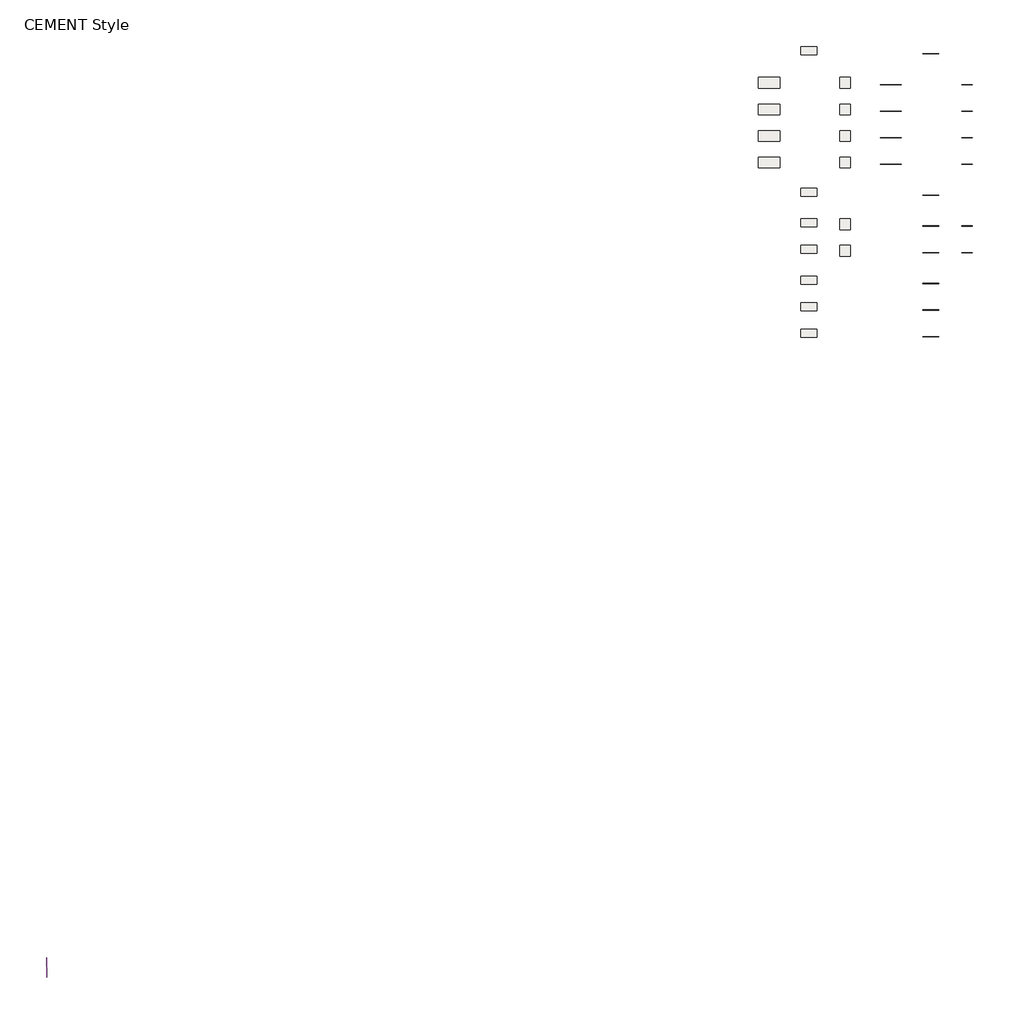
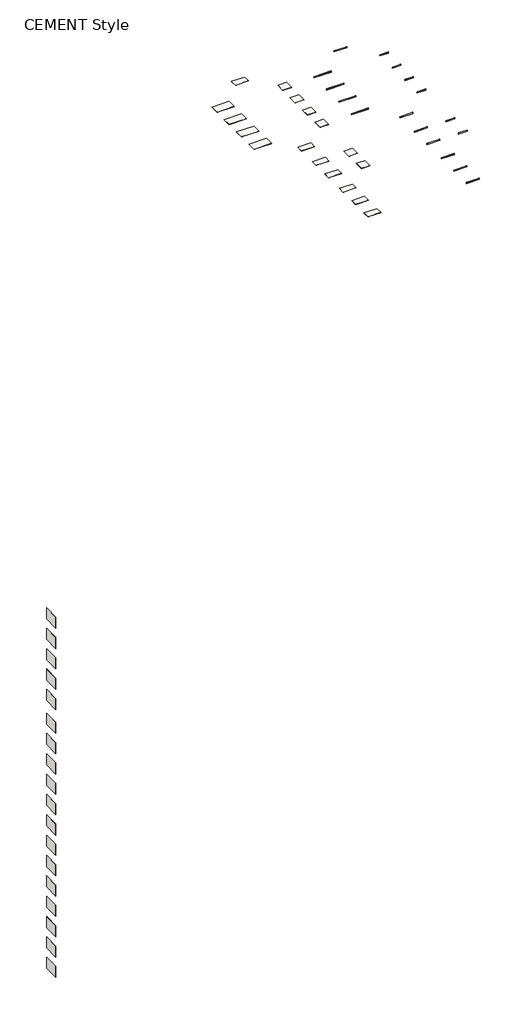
# One storey: 35 walls, 17 proxies, 17 slabs.
"""IFC4 building model written with IfcOpenShell, lengths in millimetres."""

from ifc_helpers import new_model, si_unit, frame, origin, origin_with_axes, place, context, project, spatial, polyline, outline, extrude, element, save

model = new_model("IFC4")

# Units and contexts
model_context = context("Model", 3, world=origin())
ifc_project = project(units=[si_unit("LENGTHUNIT", "METRE", prefix="MILLI")], contexts=[model_context])

# Site, building, storey
site = spatial("IfcSite", under=ifc_project)
building = spatial("IfcBuilding", under=site)
storey = spatial("IfcBuildingStorey", under=building, Name="CEMENT Style", Elevation=0.0)

# Proxies
placement = place(None, origin())
element("IfcBuildingElementProxy", 1, Name="Cesantoni_Frau_8x90_RO_Frau_Mate", ObjectType="Cesantoni_Frau_8x90_RO_Frau_Mate", at=placement, inside=storey, context=model_context, shape_type="SweptSolid", body=[
    extrude(outline(polyline([(8069.8218898, 374.781227), (8069.8218898, 385.781227), (8969.8218898, 385.781227), (8969.8218898, 374.781227), (8069.8218898, 374.781227)])), origin_with_axes(), (0.0, 0.0, 1.0), 80.0),
])
element("IfcBuildingElementProxy", 2, Name="Cesantoni_Leighton_8x60_RO_Sand_Mate", ObjectType="Cesantoni_Leighton_8x60_RO_Sand_Mate", at=placement, inside=storey, context=model_context, shape_type="SweptSolid", body=[
    extrude(outline(polyline([(10269.8218898, -1375.218773), (10269.8218898, -1364.218773), (10869.8218898, -1364.218773), (10869.8218898, -1375.218773), (10269.8218898, -1375.218773)])), origin_with_axes(), (0.0, 0.0, 1.0), 80.0),
])
element("IfcBuildingElementProxy", 3, Name="Cesantoni_Leighton_8x60_RO_Light_Mate", ObjectType="Cesantoni_Leighton_8x60_RO_Light_Mate", at=placement, inside=storey, context=model_context, shape_type="SweptSolid", body=[
    extrude(outline(polyline([(10269.8218898, -2875.218773), (10269.8218898, -2864.218773), (10869.8218898, -2864.218773), (10869.8218898, -2875.218773), (10269.8218898, -2875.218773)])), origin_with_axes(), (0.0, 0.0, 1.0), 80.0),
])
element("IfcBuildingElementProxy", 4, Name="Cesantoni_Leighton_8x60_RO_Gray_Mate", ObjectType="Cesantoni_Leighton_8x60_RO_Gray_Mate", at=placement, inside=storey, context=model_context, shape_type="SweptSolid", body=[
    extrude(outline(polyline([(10269.8218898, -4375.218773), (10269.8218898, -4364.218773), (10869.8218898, -4364.218773), (10869.8218898, -4375.218773), (10269.8218898, -4375.218773)])), origin_with_axes(), (0.0, 0.0, 1.0), 80.0),
])
element("IfcBuildingElementProxy", 5, Name="Cesantoni_Leighton_8x60_RO_Dark_Mate", ObjectType="Cesantoni_Leighton_8x60_RO_Dark_Mate", at=placement, inside=storey, context=model_context, shape_type="SweptSolid", body=[
    extrude(outline(polyline([(10269.8218898, -5875.218773), (10269.8218898, -5864.218773), (10869.8218898, -5864.218773), (10869.8218898, -5875.218773), (10269.8218898, -5875.218773)])), origin_with_axes(), (0.0, 0.0, 1.0), 80.0),
])
element("IfcBuildingElementProxy", 6, Name="Cesantoni_Leighton_8x120_RO_Sand_Mate", ObjectType="Cesantoni_Leighton_8x120_RO_Sand_Mate", at=placement, inside=storey, context=model_context, shape_type="SweptSolid", body=[
    extrude(outline(polyline([(5669.8218898, -1375.218773), (5669.8218898, -1364.218773), (6869.8218898, -1364.218773), (6869.8218898, -1375.218773), (5669.8218898, -1375.218773)])), origin_with_axes(), (0.0, 0.0, 1.0), 80.0),
])
element("IfcBuildingElementProxy", 7, Name="Cesantoni_Leighton_8x120_RO_Light_Mate", ObjectType="Cesantoni_Leighton_8x120_RO_Light_Mate", at=placement, inside=storey, context=model_context, shape_type="SweptSolid", body=[
    extrude(outline(polyline([(5669.8218898, -2875.218773), (5669.8218898, -2864.218773), (6869.8218898, -2864.218773), (6869.8218898, -2875.218773), (5669.8218898, -2875.218773)])), origin_with_axes(), (0.0, 0.0, 1.0), 80.0),
])
element("IfcBuildingElementProxy", 8, Name="Cesantoni_Leighton_8x120_RO_Gray_Mate", ObjectType="Cesantoni_Leighton_8x120_RO_Gray_Mate", at=placement, inside=storey, context=model_context, shape_type="SweptSolid", body=[
    extrude(outline(polyline([(5669.8218898, -4375.218773), (5669.8218898, -4364.218773), (6869.8218898, -4364.218773), (6869.8218898, -4375.218773), (5669.8218898, -4375.218773)])), origin_with_axes(), (0.0, 0.0, 1.0), 80.0),
])
element("IfcBuildingElementProxy", 9, Name="Cesantoni_Leighton_8x120_RO_Dark_Mate", ObjectType="Cesantoni_Leighton_8x120_RO_Dark_Mate", at=placement, inside=storey, context=model_context, shape_type="SweptSolid", body=[
    extrude(outline(polyline([(5669.8218898, -5875.218773), (5669.8218898, -5864.218773), (6869.8218898, -5864.218773), (6869.8218898, -5875.218773), (5669.8218898, -5875.218773)])), origin_with_axes(), (0.0, 0.0, 1.0), 80.0),
])
element("IfcBuildingElementProxy", 10, Name="Cesantoni_Nouvelle_8x90_RO_Nouvelle_Mate", ObjectType="Cesantoni_Nouvelle_8x90_RO_Nouvelle_Mate", at=placement, inside=storey, context=model_context, shape_type="SweptSolid", body=[
    extrude(outline(polyline([(8069.8218898, -7625.218773), (8069.8218898, -7614.218773), (8969.8218898, -7614.218773), (8969.8218898, -7625.218773), (8069.8218898, -7625.218773)])), origin_with_axes(), (0.0, 0.0, 1.0), 80.0),
])
element("IfcBuildingElementProxy", 11, Name="Cesantoni_Padova_8x60_RO_Oxford_Mate", ObjectType="Cesantoni_Padova_8x60_RO_Oxford_Mate", at=placement, inside=storey, context=model_context, shape_type="SweptSolid", body=[
    extrude(outline(polyline([(10269.8218898, -9375.218773), (10269.8218898, -9364.218773), (10869.8218898, -9364.218773), (10869.8218898, -9375.218773), (10269.8218898, -9375.218773)])), origin_with_axes(), (0.0, 0.0, 1.0), 80.0),
])
element("IfcBuildingElementProxy", 12, Name="Cesantoni_Padova_8x60_RO_Perla_Mate", ObjectType="Cesantoni_Padova_8x60_RO_Perla_Mate", at=placement, inside=storey, context=model_context, shape_type="SweptSolid", body=[
    extrude(outline(polyline([(10269.8218898, -10875.218773), (10269.8218898, -10864.218773), (10869.8218898, -10864.218773), (10869.8218898, -10875.218773), (10269.8218898, -10875.218773)])), origin_with_axes(), (0.0, 0.0, 1.0), 80.0),
])
element("IfcBuildingElementProxy", 13, Name="Cesantoni_Padova _8x90_RO_Oxford_Mate", ObjectType="Cesantoni_Padova _8x90_RO_Oxford_Mate", at=placement, inside=storey, context=model_context, shape_type="SweptSolid", body=[
    extrude(outline(polyline([(8069.8218898, -9375.218773), (8069.8218898, -9364.218773), (8969.8218898, -9364.218773), (8969.8218898, -9375.218773), (8069.8218898, -9375.218773)])), origin_with_axes(), (0.0, 0.0, 1.0), 80.0),
])
element("IfcBuildingElementProxy", 14, Name="Cesantoni_Padova _8x90_RO_Perla_Mate", ObjectType="Cesantoni_Padova _8x90_RO_Perla_Mate", at=placement, inside=storey, context=model_context, shape_type="SweptSolid", body=[
    extrude(outline(polyline([(8069.8218898, -10875.218773), (8069.8218898, -10864.218773), (8969.8218898, -10864.218773), (8969.8218898, -10875.218773), (8069.8218898, -10875.218773)])), origin_with_axes(), (0.0, 0.0, 1.0), 80.0),
])
element("IfcBuildingElementProxy", 15, Name="Cesantoni_Trenton_8x90_RO_Sand_Mate", ObjectType="Cesantoni_Trenton_8x90_RO_Sand_Mate", at=placement, inside=storey, context=model_context, shape_type="SweptSolid", body=[
    extrude(outline(polyline([(8069.8218898, -12625.218773), (8069.8218898, -12614.218773), (8969.8218898, -12614.218773), (8969.8218898, -12625.218773), (8069.8218898, -12625.218773)])), origin_with_axes(), (0.0, 0.0, 1.0), 80.0),
])
element("IfcBuildingElementProxy", 16, Name="Cesantoni_Trenton_8x90_RO_Light Gray_Mate", ObjectType="Cesantoni_Trenton_8x90_RO_Light Gray_Mate", at=placement, inside=storey, context=model_context, shape_type="SweptSolid", body=[
    extrude(outline(polyline([(8069.8218898, -14125.218773), (8069.8218898, -14114.218773), (8969.8218898, -14114.218773), (8969.8218898, -14125.218773), (8069.8218898, -14125.218773)])), origin_with_axes(), (0.0, 0.0, 1.0), 80.0),
])
element("IfcBuildingElementProxy", 17, Name="Cesantoni_Trenton_8x90_RO_Silver_Mate", ObjectType="Cesantoni_Trenton_8x90_RO_Silver_Mate", at=placement, inside=storey, context=model_context, shape_type="SweptSolid", body=[
    extrude(outline(polyline([(8069.8218898, -15625.218773), (8069.8218898, -15614.218773), (8969.8218898, -15614.218773), (8969.8218898, -15625.218773), (8069.8218898, -15625.218773)])), origin_with_axes(), (0.0, 0.0, 1.0), 80.0),
])

# Slabs
element("IfcSlab", 18, ObjectType="Cesantoni_Frau_45x90_RECT_Frau_Mate", at=placement, inside=storey, context=model_context, shape_type="SweptSolid", body=[
    extrude(outline(polyline([(2071.8218898, 784.4826442), (2071.8218898, 332.4826442), (1169.8218898, 332.4826442), (1169.8218898, 784.4826442), (2071.8218898, 784.4826442)])), frame((0.0, 0.0, -11.0), z_axis=(0.0, 0.0, 1.0), x_axis=(1.0, 0.0, 0.0)), (0.0, 0.0, 1.0), 11.0),
])
element("IfcSlab", 19, ObjectType="Cesantoni_Leighton_60x120_RECT_Sand_Mate", at=placement, inside=storey, context=model_context, shape_type="SweptSolid", body=[
    extrude(outline(polyline([(-28.1781102, -965.5173558), (-28.1781102, -1567.5173558), (-1230.1781102, -1567.5173558), (-1230.1781102, -965.5173558), (-28.1781102, -965.5173558)])), frame((0.0, 0.0, -11.0), z_axis=(0.0, 0.0, 1.0), x_axis=(1.0, 0.0, 0.0)), (0.0, 0.0, 1.0), 11.0),
])
element("IfcSlab", 20, ObjectType="Cesantoni_Leighton_60x120_RECT_Light_Mate", at=placement, inside=storey, context=model_context, shape_type="SweptSolid", body=[
    extrude(outline(polyline([(-28.1781102, -2465.5173558), (-28.1781102, -3067.5173558), (-1230.1781102, -3067.5173558), (-1230.1781102, -2465.5173558), (-28.1781102, -2465.5173558)])), frame((0.0, 0.0, -11.0), z_axis=(0.0, 0.0, 1.0), x_axis=(1.0, 0.0, 0.0)), (0.0, 0.0, 1.0), 11.0),
])
element("IfcSlab", 21, ObjectType="Cesantoni_Leighton_60x120_RECT_Gray_Mate", at=placement, inside=storey, context=model_context, shape_type="SweptSolid", body=[
    extrude(outline(polyline([(-28.1781102, -3965.5173558), (-28.1781102, -4567.5173558), (-1230.1781102, -4567.5173558), (-1230.1781102, -3965.5173558), (-28.1781102, -3965.5173558)])), frame((0.0, 0.0, -11.0), z_axis=(0.0, 0.0, 1.0), x_axis=(1.0, 0.0, 0.0)), (0.0, 0.0, 1.0), 11.0),
])
element("IfcSlab", 22, ObjectType="Cesantoni_Leighton_60x120_RECT_Dark_Mate", at=placement, inside=storey, context=model_context, shape_type="SweptSolid", body=[
    extrude(outline(polyline([(-28.1781102, -5465.5173558), (-28.1781102, -6067.5173558), (-1230.1781102, -6067.5173558), (-1230.1781102, -5465.5173558), (-28.1781102, -5465.5173558)])), frame((0.0, 0.0, -11.0), z_axis=(0.0, 0.0, 1.0), x_axis=(1.0, 0.0, 0.0)), (0.0, 0.0, 1.0), 11.0),
])
element("IfcSlab", 23, ObjectType="Cesantoni_Leighton_60x60_RECT_Sand_Mate", at=placement, inside=storey, context=model_context, shape_type="SweptSolid", body=[
    extrude(outline(polyline([(3971.8218898, -965.5173558), (3971.8218898, -1567.5173558), (3369.8218898, -1567.5173558), (3369.8218898, -965.5173558), (3971.8218898, -965.5173558)])), frame((0.0, 0.0, -11.0), z_axis=(0.0, 0.0, 1.0), x_axis=(1.0, 0.0, 0.0)), (0.0, 0.0, 1.0), 11.0),
])
element("IfcSlab", 24, ObjectType="Cesantoni_Leighton_60x60_RECT_Light_Mate", at=placement, inside=storey, context=model_context, shape_type="SweptSolid", body=[
    extrude(outline(polyline([(3971.8218898, -2465.5173558), (3971.8218898, -3067.5173558), (3369.8218898, -3067.5173558), (3369.8218898, -2465.5173558), (3971.8218898, -2465.5173558)])), frame((0.0, 0.0, -11.0), z_axis=(0.0, 0.0, 1.0), x_axis=(1.0, 0.0, 0.0)), (0.0, 0.0, 1.0), 11.0),
])
element("IfcSlab", 25, ObjectType="Cesantoni_Leighton_60x60_RECT_Gray_Mate", at=placement, inside=storey, context=model_context, shape_type="SweptSolid", body=[
    extrude(outline(polyline([(3971.8218898, -3965.5173558), (3971.8218898, -4567.5173558), (3369.8218898, -4567.5173558), (3369.8218898, -3965.5173558), (3971.8218898, -3965.5173558)])), frame((0.0, 0.0, -11.0), z_axis=(0.0, 0.0, 1.0), x_axis=(1.0, 0.0, 0.0)), (0.0, 0.0, 1.0), 11.0),
])
element("IfcSlab", 26, ObjectType="Cesantoni_Leighton_60x60_RECT_Dark_Mate", at=placement, inside=storey, context=model_context, shape_type="SweptSolid", body=[
    extrude(outline(polyline([(3971.8218898, -5465.5173558), (3971.8218898, -6067.5173558), (3369.8218898, -6067.5173558), (3369.8218898, -5465.5173558), (3971.8218898, -5465.5173558)])), frame((0.0, 0.0, -11.0), z_axis=(0.0, 0.0, 1.0), x_axis=(1.0, 0.0, 0.0)), (0.0, 0.0, 1.0), 11.0),
])
element("IfcSlab", 27, ObjectType="Cesantoni_Nouvelle_45x90_RECT_Nouvelle_Mate", at=placement, inside=storey, context=model_context, shape_type="SweptSolid", body=[
    extrude(outline(polyline([(2071.8218898, -7215.5173558), (2071.8218898, -7667.5173558), (1169.8218898, -7667.5173558), (1169.8218898, -7215.5173558), (2071.8218898, -7215.5173558)])), frame((0.0, 0.0, -11.0), z_axis=(0.0, 0.0, 1.0), x_axis=(1.0, 0.0, 0.0)), (0.0, 0.0, 1.0), 11.0),
])
element("IfcSlab", 28, ObjectType="Cesantoni_Padova_60x60_RECT_Oxford_Mate", at=placement, inside=storey, context=model_context, shape_type="SweptSolid", body=[
    extrude(outline(polyline([(3971.8218898, -8965.5173558), (3971.8218898, -9567.5173558), (3369.8218898, -9567.5173558), (3369.8218898, -8965.5173558), (3971.8218898, -8965.5173558)])), frame((0.0, 0.0, -11.0), z_axis=(0.0, 0.0, 1.0), x_axis=(1.0, 0.0, 0.0)), (0.0, 0.0, 1.0), 11.0),
])
element("IfcSlab", 29, ObjectType="Cesantoni_Padova_60x60_RECT_Perla_Mate", at=placement, inside=storey, context=model_context, shape_type="SweptSolid", body=[
    extrude(outline(polyline([(3971.8218898, -10465.5173558), (3971.8218898, -11067.5173558), (3369.8218898, -11067.5173558), (3369.8218898, -10465.5173558), (3971.8218898, -10465.5173558)])), frame((0.0, 0.0, -11.0), z_axis=(0.0, 0.0, 1.0), x_axis=(1.0, 0.0, 0.0)), (0.0, 0.0, 1.0), 11.0),
])
element("IfcSlab", 30, ObjectType="Cesantoni_Padova _45x90_RECT_Oxford_Mate", at=placement, inside=storey, context=model_context, shape_type="SweptSolid", body=[
    extrude(outline(polyline([(2071.8218898, -8965.5173558), (2071.8218898, -9417.5173558), (1169.8218898, -9417.5173558), (1169.8218898, -8965.5173558), (2071.8218898, -8965.5173558)])), frame((0.0, 0.0, -11.0), z_axis=(0.0, 0.0, 1.0), x_axis=(1.0, 0.0, 0.0)), (0.0, 0.0, 1.0), 11.0),
])
element("IfcSlab", 31, ObjectType="Cesantoni_Padova _45x90_RECT_Perla_Mate", at=placement, inside=storey, context=model_context, shape_type="SweptSolid", body=[
    extrude(outline(polyline([(2071.8218898, -10465.5173558), (2071.8218898, -10917.5173558), (1169.8218898, -10917.5173558), (1169.8218898, -10465.5173558), (2071.8218898, -10465.5173558)])), frame((0.0, 0.0, -11.0), z_axis=(0.0, 0.0, 1.0), x_axis=(1.0, 0.0, 0.0)), (0.0, 0.0, 1.0), 11.0),
])
element("IfcSlab", 32, ObjectType="Cesantoni_Trenton_45x90_RECT_Sand_Mate", at=placement, inside=storey, context=model_context, shape_type="SweptSolid", body=[
    extrude(outline(polyline([(2071.8218898, -12215.5173558), (2071.8218898, -12667.5173558), (1169.8218898, -12667.5173558), (1169.8218898, -12215.5173558), (2071.8218898, -12215.5173558)])), frame((0.0, 0.0, -11.0), z_axis=(0.0, 0.0, 1.0), x_axis=(1.0, 0.0, 0.0)), (0.0, 0.0, 1.0), 11.0),
])
element("IfcSlab", 33, ObjectType="Cesantoni_Trenton_45x90_RECT_Light Gray_Mate", at=placement, inside=storey, context=model_context, shape_type="SweptSolid", body=[
    extrude(outline(polyline([(2071.8218898, -13715.5173558), (2071.8218898, -14167.5173558), (1169.8218898, -14167.5173558), (1169.8218898, -13715.5173558), (2071.8218898, -13715.5173558)])), frame((0.0, 0.0, -11.0), z_axis=(0.0, 0.0, 1.0), x_axis=(1.0, 0.0, 0.0)), (0.0, 0.0, 1.0), 11.0),
])
element("IfcSlab", 34, ObjectType="Cesantoni_Trenton_45x90_RECT_Silver_Mate", at=placement, inside=storey, context=model_context, shape_type="SweptSolid", body=[
    extrude(outline(polyline([(2071.8218898, -15215.5173558), (2071.8218898, -15667.5173558), (1169.8218898, -15667.5173558), (1169.8218898, -15215.5173558), (2071.8218898, -15215.5173558)])), frame((0.0, 0.0, -11.0), z_axis=(0.0, 0.0, 1.0), x_axis=(1.0, 0.0, 0.0)), (0.0, 0.0, 1.0), 11.0),
])

# Walls
element("IfcWall", 35, ObjectType="Muro básico:muro", at=placement, inside=storey, context=model_context, shape_type="SweptSolid", body=[
    extrude(outline(polyline([(8969.8218898, 385.781227), (8069.8218898, 385.781227), (8069.8218898, 386.781227), (8969.8218898, 386.781227), (8969.8218898, 385.781227)])), origin_with_axes(), (0.0, 0.0, 1.0), 40.0),
])
element("IfcWall", 36, ObjectType="Muro básico:muro", at=placement, inside=storey, context=model_context, shape_type="SweptSolid", body=[
    extrude(outline(polyline([(10869.8218898, -1364.218773), (10269.8218898, -1364.218773), (10269.8218898, -1363.218773), (10869.8218898, -1363.218773), (10869.8218898, -1364.218773)])), origin_with_axes(), (0.0, 0.0, 1.0), 40.0),
])
element("IfcWall", 37, ObjectType="Muro básico:muro", at=placement, inside=storey, context=model_context, shape_type="SweptSolid", body=[
    extrude(outline(polyline([(10869.8218898, -2864.218773), (10269.8218898, -2864.218773), (10269.8218898, -2863.218773), (10869.8218898, -2863.218773), (10869.8218898, -2864.218773)])), origin_with_axes(), (0.0, 0.0, 1.0), 40.0),
])
element("IfcWall", 38, ObjectType="Muro básico:muro", at=placement, inside=storey, context=model_context, shape_type="SweptSolid", body=[
    extrude(outline(polyline([(10869.8218898, -4364.218773), (10269.8218898, -4364.218773), (10269.8218898, -4363.218773), (10869.8218898, -4363.218773), (10869.8218898, -4364.218773)])), origin_with_axes(), (0.0, 0.0, 1.0), 40.0),
])
element("IfcWall", 39, ObjectType="Muro básico:muro", at=placement, inside=storey, context=model_context, shape_type="SweptSolid", body=[
    extrude(outline(polyline([(10869.8218898, -5864.218773), (10269.8218898, -5864.218773), (10269.8218898, -5863.218773), (10869.8218898, -5863.218773), (10869.8218898, -5864.218773)])), origin_with_axes(), (0.0, 0.0, 1.0), 40.0),
])
element("IfcWall", 40, ObjectType="Muro básico:muro", at=placement, inside=storey, context=model_context, shape_type="SweptSolid", body=[
    extrude(outline(polyline([(6869.8218898, -1364.218773), (5669.8218898, -1364.218773), (5669.8218898, -1363.218773), (6869.8218898, -1363.218773), (6869.8218898, -1364.218773)])), origin_with_axes(), (0.0, 0.0, 1.0), 40.0),
])
element("IfcWall", 41, ObjectType="Muro básico:muro", at=placement, inside=storey, context=model_context, shape_type="SweptSolid", body=[
    extrude(outline(polyline([(6869.8218898, -2864.218773), (5669.8218898, -2864.218773), (5669.8218898, -2863.218773), (6869.8218898, -2863.218773), (6869.8218898, -2864.218773)])), origin_with_axes(), (0.0, 0.0, 1.0), 40.0),
])
element("IfcWall", 42, ObjectType="Muro básico:muro", at=placement, inside=storey, context=model_context, shape_type="SweptSolid", body=[
    extrude(outline(polyline([(6869.8218898, -4364.218773), (5669.8218898, -4364.218773), (5669.8218898, -4363.218773), (6869.8218898, -4363.218773), (6869.8218898, -4364.218773)])), origin_with_axes(), (0.0, 0.0, 1.0), 40.0),
])
element("IfcWall", 43, ObjectType="Muro básico:muro", at=placement, inside=storey, context=model_context, shape_type="SweptSolid", body=[
    extrude(outline(polyline([(6869.8218898, -5864.218773), (5669.8218898, -5864.218773), (5669.8218898, -5863.218773), (6869.8218898, -5863.218773), (6869.8218898, -5864.218773)])), origin_with_axes(), (0.0, 0.0, 1.0), 40.0),
])
element("IfcWall", 44, ObjectType="Muro básico:muro", at=placement, inside=storey, context=model_context, shape_type="SweptSolid", body=[
    extrude(outline(polyline([(8969.8218898, -7614.218773), (8069.8218898, -7614.218773), (8069.8218898, -7613.218773), (8969.8218898, -7613.218773), (8969.8218898, -7614.218773)])), origin_with_axes(), (0.0, 0.0, 1.0), 40.0),
])
element("IfcWall", 45, ObjectType="Muro básico:muro", at=placement, inside=storey, context=model_context, shape_type="SweptSolid", body=[
    extrude(outline(polyline([(10869.8218898, -9364.218773), (10269.8218898, -9364.218773), (10269.8218898, -9363.218773), (10869.8218898, -9363.218773), (10869.8218898, -9364.218773)])), origin_with_axes(), (0.0, 0.0, 1.0), 40.0),
])
element("IfcWall", 46, ObjectType="Muro básico:muro", at=placement, inside=storey, context=model_context, shape_type="SweptSolid", body=[
    extrude(outline(polyline([(10869.8218898, -10864.218773), (10269.8218898, -10864.218773), (10269.8218898, -10863.218773), (10869.8218898, -10863.218773), (10869.8218898, -10864.218773)])), origin_with_axes(), (0.0, 0.0, 1.0), 40.0),
])
element("IfcWall", 47, ObjectType="Muro básico:muro", at=placement, inside=storey, context=model_context, shape_type="SweptSolid", body=[
    extrude(outline(polyline([(8969.8218898, -9364.218773), (8069.8218898, -9364.218773), (8069.8218898, -9363.218773), (8969.8218898, -9363.218773), (8969.8218898, -9364.218773)])), origin_with_axes(), (0.0, 0.0, 1.0), 40.0),
])
element("IfcWall", 48, ObjectType="Muro básico:muro", at=placement, inside=storey, context=model_context, shape_type="SweptSolid", body=[
    extrude(outline(polyline([(8969.8218898, -10864.218773), (8069.8218898, -10864.218773), (8069.8218898, -10863.218773), (8969.8218898, -10863.218773), (8969.8218898, -10864.218773)])), origin_with_axes(), (0.0, 0.0, 1.0), 40.0),
])
element("IfcWall", 49, ObjectType="Muro básico:muro", at=placement, inside=storey, context=model_context, shape_type="SweptSolid", body=[
    extrude(outline(polyline([(8969.8218898, -12614.218773), (8069.8218898, -12614.218773), (8069.8218898, -12613.218773), (8969.8218898, -12613.218773), (8969.8218898, -12614.218773)])), origin_with_axes(), (0.0, 0.0, 1.0), 40.0),
])
element("IfcWall", 50, ObjectType="Muro básico:muro", at=placement, inside=storey, context=model_context, shape_type="SweptSolid", body=[
    extrude(outline(polyline([(8969.8218898, -14114.218773), (8069.8218898, -14114.218773), (8069.8218898, -14113.218773), (8969.8218898, -14113.218773), (8969.8218898, -14114.218773)])), origin_with_axes(), (0.0, 0.0, 1.0), 40.0),
])
element("IfcWall", 51, ObjectType="Muro básico:muro", at=placement, inside=storey, context=model_context, shape_type="SweptSolid", body=[
    extrude(outline(polyline([(8969.8218898, -15614.218773), (8069.8218898, -15614.218773), (8069.8218898, -15613.218773), (8969.8218898, -15613.218773), (8969.8218898, -15614.218773)])), origin_with_axes(), (0.0, 0.0, 1.0), 40.0),
])
element("IfcWall", 52, ObjectType="Cesantoni_Charlot_28.3x7.2_Graphite Mate_Mate", at=placement, inside=storey, context=model_context, shape_type="SweptSolid", body=[
    extrude(outline(polyline([(-41497.3407204, -50736.7282789), (-41497.3407204, -51856.7282789), (-41507.3407204, -51856.7282789), (-41507.3407204, -50736.7282789), (-41497.3407204, -50736.7282789)])), frame((0.0, 0.0, 6546.5829342), z_axis=(0.0, 0.0, 1.0), x_axis=(1.0, 0.0, 0.0)), (0.0, 0.0, 1.0), 812.8042727),
])
element("IfcWall", 53, ObjectType="Cesantoni_Charlot_28.3x7.2_Blanco Mate_Mate", at=placement, inside=storey, context=model_context, shape_type="SweptSolid", body=[
    extrude(outline(polyline([(-41497.3407204, -50736.7282789), (-41497.3407204, -51856.7282789), (-41507.3407204, -51856.7282789), (-41507.3407204, -50736.7282789), (-41497.3407204, -50736.7282789)])), frame((0.0, 0.0, 5046.5829342), z_axis=(0.0, 0.0, 1.0), x_axis=(1.0, 0.0, 0.0)), (0.0, 0.0, 1.0), 812.8042727),
])
element("IfcWall", 54, ObjectType="Cesantoni_Charlot_28.3x7.2_Blanco_Brillante", at=placement, inside=storey, context=model_context, shape_type="SweptSolid", body=[
    extrude(outline(polyline([(-41497.3407204, -50736.7282789), (-41497.3407204, -51856.7282789), (-41507.3407204, -51856.7282789), (-41507.3407204, -50736.7282789), (-41497.3407204, -50736.7282789)])), frame((0.0, 0.0, 3546.5829342), z_axis=(0.0, 0.0, 1.0), x_axis=(1.0, 0.0, 0.0)), (0.0, 0.0, 1.0), 812.8042727),
])
element("IfcWall", 55, ObjectType="Cesantoni_Charlot_28.3x7.2_Negro Mate_Mate", at=placement, inside=storey, context=model_context, shape_type="SweptSolid", body=[
    extrude(outline(polyline([(-41497.3407204, -50736.7282789), (-41497.3407204, -51856.7282789), (-41507.3407204, -51856.7282789), (-41507.3407204, -50736.7282789), (-41497.3407204, -50736.7282789)])), frame((0.0, 0.0, 2046.5829342), z_axis=(0.0, 0.0, 1.0), x_axis=(1.0, 0.0, 0.0)), (0.0, 0.0, 1.0), 812.8042727),
])
element("IfcWall", 56, ObjectType="Cesantoni_Charlot_28.3x7.2_Negro_Brillante", at=placement, inside=storey, context=model_context, shape_type="SweptSolid", body=[
    extrude(outline(polyline([(-41497.3407204, -50736.7282789), (-41497.3407204, -51856.7282789), (-41507.3407204, -51856.7282789), (-41507.3407204, -50736.7282789), (-41497.3407204, -50736.7282789)])), frame((0.0, 0.0, 546.5829342), z_axis=(0.0, 0.0, 1.0), x_axis=(1.0, 0.0, 0.0)), (0.0, 0.0, 1.0), 812.8042727),
])
element("IfcWall", 57, ObjectType="Cesantoni_Edimburgo_28.3x7.2_Pearl Rose_Brillante", at=placement, inside=storey, context=model_context, shape_type="SweptSolid", body=[
    extrude(outline(polyline([(-41497.3407204, -50736.7282789), (-41497.3407204, -51856.7282789), (-41507.3407204, -51856.7282789), (-41507.3407204, -50736.7282789), (-41497.3407204, -50736.7282789)])), frame((0.0, 0.0, -1203.4170658), z_axis=(0.0, 0.0, 1.0), x_axis=(1.0, 0.0, 0.0)), (0.0, 0.0, 1.0), 812.8042727),
])
element("IfcWall", 58, ObjectType="Cesantoni_Edimburgo_28.3x7.2_Ambar_Brillante", at=placement, inside=storey, context=model_context, shape_type="SweptSolid", body=[
    extrude(outline(polyline([(-41497.3407204, -50736.7282789), (-41497.3407204, -51856.7282789), (-41507.3407204, -51856.7282789), (-41507.3407204, -50736.7282789), (-41497.3407204, -50736.7282789)])), frame((0.0, 0.0, -2703.4170658), z_axis=(0.0, 0.0, 1.0), x_axis=(1.0, 0.0, 0.0)), (0.0, 0.0, 1.0), 812.8042727),
])
element("IfcWall", 59, ObjectType="Cesantoni_Edimburgo_28.3x7.2_Coral_Brillante", at=placement, inside=storey, context=model_context, shape_type="SweptSolid", body=[
    extrude(outline(polyline([(-41497.3407204, -50736.7282789), (-41497.3407204, -51856.7282789), (-41507.3407204, -51856.7282789), (-41507.3407204, -50736.7282789), (-41497.3407204, -50736.7282789)])), frame((0.0, 0.0, -4203.4170658), z_axis=(0.0, 0.0, 1.0), x_axis=(1.0, 0.0, 0.0)), (0.0, 0.0, 1.0), 812.8042727),
])
element("IfcWall", 60, ObjectType="Cesantoni_Edimburgo_28.3x7.2_Obsidian_Brillante", at=placement, inside=storey, context=model_context, shape_type="SweptSolid", body=[
    extrude(outline(polyline([(-41497.3407204, -50736.7282789), (-41497.3407204, -51856.7282789), (-41507.3407204, -51856.7282789), (-41507.3407204, -50736.7282789), (-41497.3407204, -50736.7282789)])), frame((0.0, 0.0, -5703.4170658), z_axis=(0.0, 0.0, 1.0), x_axis=(1.0, 0.0, 0.0)), (0.0, 0.0, 1.0), 812.8042727),
])
element("IfcWall", 61, ObjectType="Cesantoni_Edimburgo_28.3x7.2_Olive_Brillante", at=placement, inside=storey, context=model_context, shape_type="SweptSolid", body=[
    extrude(outline(polyline([(-41497.3407204, -50736.7282789), (-41497.3407204, -51856.7282789), (-41507.3407204, -51856.7282789), (-41507.3407204, -50736.7282789), (-41497.3407204, -50736.7282789)])), frame((0.0, 0.0, -7203.4170658), z_axis=(0.0, 0.0, 1.0), x_axis=(1.0, 0.0, 0.0)), (0.0, 0.0, 1.0), 812.8042727),
])
element("IfcWall", 62, ObjectType="Cesantoni_Edimburgo_28.3x7.2_Marfil Mate_Mate", at=placement, inside=storey, context=model_context, shape_type="SweptSolid", body=[
    extrude(outline(polyline([(-41497.3407204, -50736.7282789), (-41497.3407204, -51856.7282789), (-41507.3407204, -51856.7282789), (-41507.3407204, -50736.7282789), (-41497.3407204, -50736.7282789)])), frame((0.0, 0.0, -8703.4170658), z_axis=(0.0, 0.0, 1.0), x_axis=(1.0, 0.0, 0.0)), (0.0, 0.0, 1.0), 812.8042727),
])
element("IfcWall", 63, ObjectType="Cesantoni_Edimburgo_28.3x7.2_Marfil_Brillante", at=placement, inside=storey, context=model_context, shape_type="SweptSolid", body=[
    extrude(outline(polyline([(-41497.3407204, -50736.7282789), (-41497.3407204, -51856.7282789), (-41507.3407204, -51856.7282789), (-41507.3407204, -50736.7282789), (-41497.3407204, -50736.7282789)])), frame((0.0, 0.0, -10203.4170658), z_axis=(0.0, 0.0, 1.0), x_axis=(1.0, 0.0, 0.0)), (0.0, 0.0, 1.0), 812.8042727),
])
element("IfcWall", 64, ObjectType="Cesantoni_Edimburgo_28.3x7.2_Taupé Mate_Mate", at=placement, inside=storey, context=model_context, shape_type="SweptSolid", body=[
    extrude(outline(polyline([(-41497.3407204, -50736.7282789), (-41497.3407204, -51856.7282789), (-41507.3407204, -51856.7282789), (-41507.3407204, -50736.7282789), (-41497.3407204, -50736.7282789)])), frame((0.0, 0.0, -11703.4170658), z_axis=(0.0, 0.0, 1.0), x_axis=(1.0, 0.0, 0.0)), (0.0, 0.0, 1.0), 812.8042727),
])
element("IfcWall", 65, ObjectType="Cesantoni_Edimburgo_28.3x7.2_Taupé_Brillante", at=placement, inside=storey, context=model_context, shape_type="SweptSolid", body=[
    extrude(outline(polyline([(-41497.3407204, -50736.7282789), (-41497.3407204, -51856.7282789), (-41507.3407204, -51856.7282789), (-41507.3407204, -50736.7282789), (-41497.3407204, -50736.7282789)])), frame((0.0, 0.0, -13203.4170658), z_axis=(0.0, 0.0, 1.0), x_axis=(1.0, 0.0, 0.0)), (0.0, 0.0, 1.0), 812.8042727),
])
element("IfcWall", 66, ObjectType="Cesantoni_Edimburgo_28.3x7.2_Café Mate_Mate", at=placement, inside=storey, context=model_context, shape_type="SweptSolid", body=[
    extrude(outline(polyline([(-41497.3407204, -50736.7282789), (-41497.3407204, -51856.7282789), (-41507.3407204, -51856.7282789), (-41507.3407204, -50736.7282789), (-41497.3407204, -50736.7282789)])), frame((0.0, 0.0, -14703.4170658), z_axis=(0.0, 0.0, 1.0), x_axis=(1.0, 0.0, 0.0)), (0.0, 0.0, 1.0), 812.8042727),
])
element("IfcWall", 67, ObjectType="Cesantoni_Edimburgo_28.3x7.2_Café_Brillante", at=placement, inside=storey, context=model_context, shape_type="SweptSolid", body=[
    extrude(outline(polyline([(-41497.3407204, -50736.7282789), (-41497.3407204, -51856.7282789), (-41507.3407204, -51856.7282789), (-41507.3407204, -50736.7282789), (-41497.3407204, -50736.7282789)])), frame((0.0, 0.0, -16203.4170658), z_axis=(0.0, 0.0, 1.0), x_axis=(1.0, 0.0, 0.0)), (0.0, 0.0, 1.0), 812.8042727),
])
element("IfcWall", 68, ObjectType="Cesantoni_Edimburgo_28.3x7.2_Oxford Mate_Mate", at=placement, inside=storey, context=model_context, shape_type="SweptSolid", body=[
    extrude(outline(polyline([(-41497.3407204, -50736.7282789), (-41497.3407204, -51856.7282789), (-41507.3407204, -51856.7282789), (-41507.3407204, -50736.7282789), (-41497.3407204, -50736.7282789)])), frame((0.0, 0.0, -17703.4170658), z_axis=(0.0, 0.0, 1.0), x_axis=(1.0, 0.0, 0.0)), (0.0, 0.0, 1.0), 812.8042727),
])
element("IfcWall", 69, ObjectType="Cesantoni_Edimburgo_28.3x7.2_Oxford_Brillante", at=placement, inside=storey, context=model_context, shape_type="SweptSolid", body=[
    extrude(outline(polyline([(-41497.3407204, -50736.7282789), (-41497.3407204, -51856.7282789), (-41507.3407204, -51856.7282789), (-41507.3407204, -50736.7282789), (-41497.3407204, -50736.7282789)])), frame((0.0, 0.0, -19203.4170658), z_axis=(0.0, 0.0, 1.0), x_axis=(1.0, 0.0, 0.0)), (0.0, 0.0, 1.0), 812.8042727),
])

save(model, "model.ifc")
